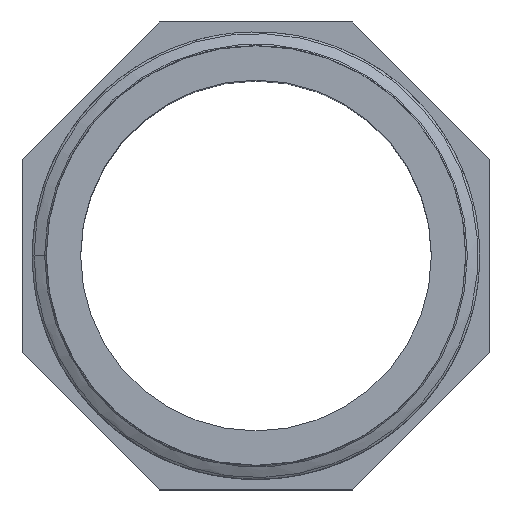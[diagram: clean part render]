
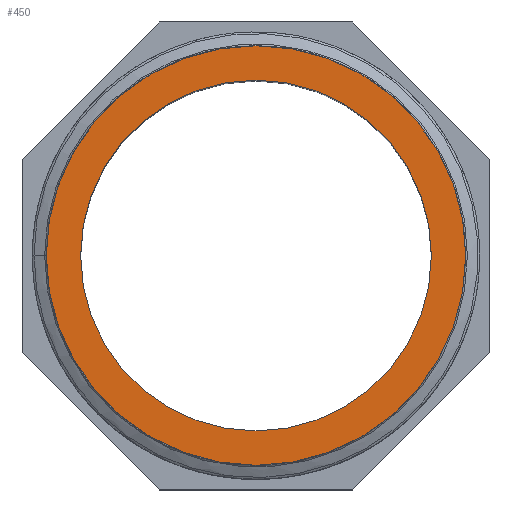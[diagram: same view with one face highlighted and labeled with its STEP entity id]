
A CAD part, top view. The second image highlights one B-rep face of the part: STEP entity #450.
In plain terms, the highlighted planar face has unit normal (0, 0, 1).
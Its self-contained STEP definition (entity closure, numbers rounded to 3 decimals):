
#25=CIRCLE('',#474,22.423);
#26=CIRCLE('',#476,18.75);
#42=FACE_BOUND('',#123,.T.);
#91=FACE_OUTER_BOUND('',#122,.T.);
#122=EDGE_LOOP('',(#408));
#123=EDGE_LOOP('',(#409));
#215=VERTEX_POINT('',#3165);
#222=VERTEX_POINT('',#7862);
#283=EDGE_CURVE('',#215,#215,#25,.T.);
#284=EDGE_CURVE('',#222,#222,#26,.T.);
#408=ORIENTED_EDGE('',*,*,#283,.T.);
#409=ORIENTED_EDGE('',*,*,#284,.T.);
#423=PLANE('',#479);
#450=ADVANCED_FACE('',(#91,#42),#423,.T.);
#474=AXIS2_PLACEMENT_3D('',#7860,#554,#555);
#476=AXIS2_PLACEMENT_3D('',#7863,#558,#559);
#479=AXIS2_PLACEMENT_3D('',#7867,#564,#565);
#554=DIRECTION('center_axis',(0.,0.,1.));
#555=DIRECTION('ref_axis',(-1.,0.,0.));
#558=DIRECTION('center_axis',(0.,0.,-1.));
#559=DIRECTION('ref_axis',(-1.,0.,0.));
#564=DIRECTION('center_axis',(0.,0.,1.));
#565=DIRECTION('ref_axis',(1.,0.,0.));
#3165=CARTESIAN_POINT('',(-22.423,0.,29.));
#7860=CARTESIAN_POINT('Origin',(0.,0.,29.));
#7862=CARTESIAN_POINT('',(18.75,0.,29.));
#7863=CARTESIAN_POINT('Origin',(0.,0.,29.));
#7867=CARTESIAN_POINT('Origin',(0.,0.,
29.));
